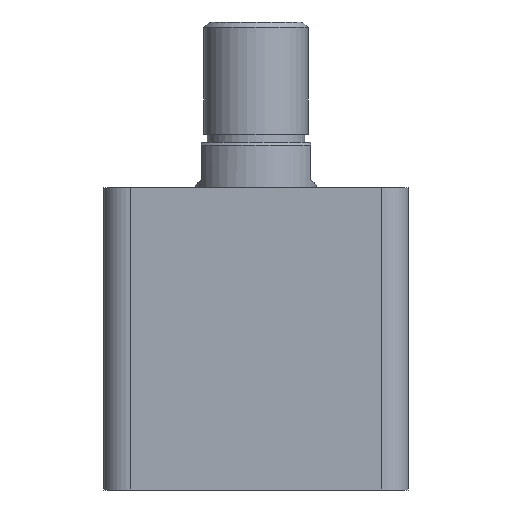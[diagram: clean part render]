
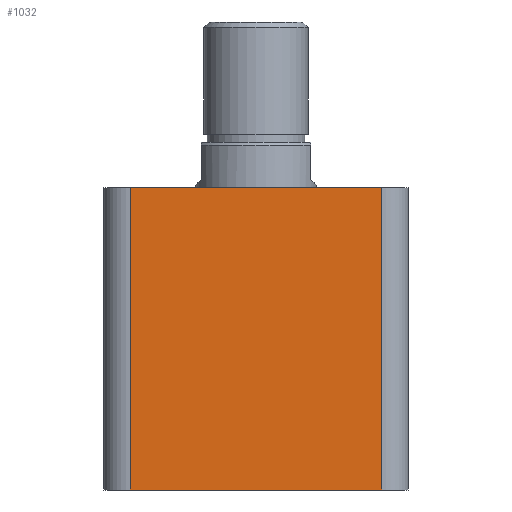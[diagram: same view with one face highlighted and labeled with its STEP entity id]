
A CAD part, front view. The second image highlights one B-rep face of the part: STEP entity #1032.
In plain terms, the highlighted planar face has unit normal (0, -1, 0).
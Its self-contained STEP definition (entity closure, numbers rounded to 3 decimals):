
#10 = PLANE ( 'NONE',  #2264 ) ;
#15 = DIRECTION ( 'NONE',  ( 0., 1., 0. ) ) ;
#16 = CARTESIAN_POINT ( 'NONE',  ( -57., -57., 113. ) ) ;
#30 = VERTEX_POINT ( 'NONE', #332 ) ;
#31 = VERTEX_POINT ( 'NONE', #292 ) ;
#40 = VERTEX_POINT ( 'NONE', #356 ) ;
#99 = VERTEX_POINT ( 'NONE', #318 ) ;
#292 = CARTESIAN_POINT ( 'NONE',  ( 47., -57., 0. ) ) ;
#318 = CARTESIAN_POINT ( 'NONE',  ( 47., -57., 113. ) ) ;
#332 = CARTESIAN_POINT ( 'NONE',  ( -47., -57., 113. ) ) ;
#356 = CARTESIAN_POINT ( 'NONE',  ( -47., -57., 0. ) ) ;
#627 = ORIENTED_EDGE ( 'NONE', *, *, #1831, .T. ) ;
#632 = ORIENTED_EDGE ( 'NONE', *, *, #1832, .T. ) ;
#644 = ORIENTED_EDGE ( 'NONE', *, *, #1833, .F. ) ;
#646 = ORIENTED_EDGE ( 'NONE', *, *, #1834, .T. ) ;
#666 = FACE_OUTER_BOUND ( 'NONE', #1886, .T. ) ;
#863 = DIRECTION ( 'NONE',  ( 0., 0., 1. ) ) ;
#1032 = ADVANCED_FACE ( 'NONE', ( #666 ), #10, .F. ) ;
#1493 = CARTESIAN_POINT ( 'NONE',  ( 47., -57., 113. ) ) ;
#1503 = CARTESIAN_POINT ( 'NONE',  ( -57., -57., 0. ) ) ;
#1504 = DIRECTION ( 'NONE',  ( 1., 0., 0. ) ) ;
#1505 = DIRECTION ( 'NONE',  ( 0., 0., 1. ) ) ;
#1506 = CARTESIAN_POINT ( 'NONE',  ( -57., -57., 113. ) ) ;
#1507 = DIRECTION ( 'NONE',  ( 1., 0., 0. ) ) ;
#1508 = CARTESIAN_POINT ( 'NONE',  ( -47., -57., 113. ) ) ;
#1509 = DIRECTION ( 'NONE',  ( 0., 0., -1. ) ) ;
#1831 = EDGE_CURVE ( 'NONE', #40, #31, #2063, .T. ) ;
#1832 = EDGE_CURVE ( 'NONE', #31, #99, #2057, .T. ) ;
#1833 = EDGE_CURVE ( 'NONE', #30, #99, #2067, .T. ) ;
#1834 = EDGE_CURVE ( 'NONE', #30, #40, #2069, .T. ) ;
#1886 = EDGE_LOOP ( 'NONE', ( #627, #632, #644, #646 ) ) ;
#2057 = LINE ( 'NONE', #1493, #2068 ) ;
#2063 = LINE ( 'NONE', #1503, #2066 ) ;
#2066 = VECTOR ( 'NONE', #1504, 1000. ) ;
#2067 = LINE ( 'NONE', #1506, #2070 ) ;
#2068 = VECTOR ( 'NONE', #1505, 1000. ) ;
#2069 = LINE ( 'NONE', #1508, #2072 ) ;
#2070 = VECTOR ( 'NONE', #1507, 1000. ) ;
#2072 = VECTOR ( 'NONE', #1509, 1000. ) ;
#2264 = AXIS2_PLACEMENT_3D ( 'NONE', #16, #15, #863 ) ;
